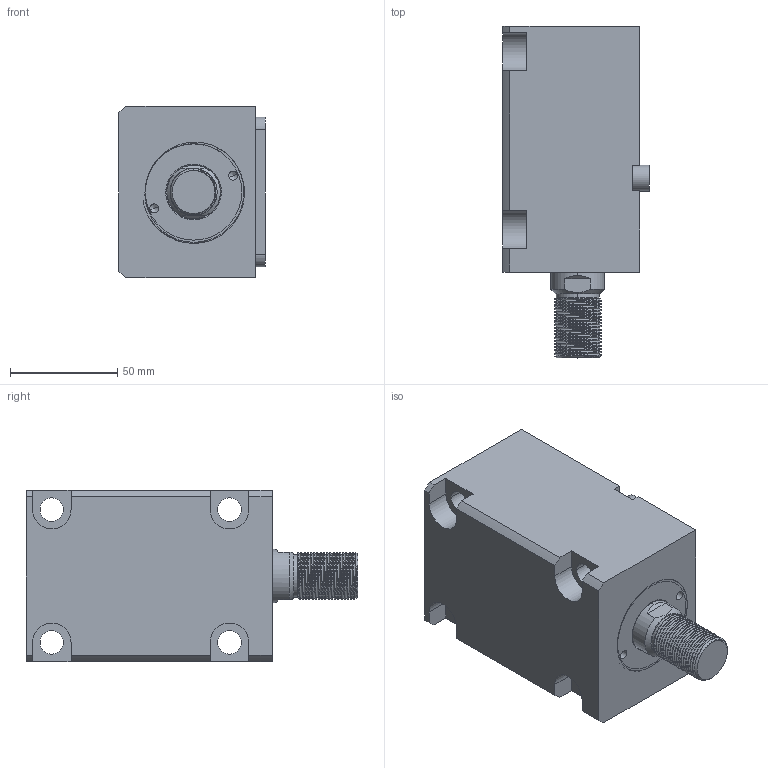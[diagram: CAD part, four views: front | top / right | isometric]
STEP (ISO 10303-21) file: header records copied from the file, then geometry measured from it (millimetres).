
FILE_DESCRIPTION (( 'STEP AP214' ), '1' );
FILE_NAME ('chtb-lam40x60w_asm.STEP', '2018-05-30T03:00:27', ( 'Windows' ), ( 'Microsoft' ), 'SwSTEP 2.0', 'SolidWorks 2015', '' );
FILE_SCHEMA (( 'AUTOMOTIVE_DESIGN' ));
Length unit declared in the file: millimetre
Products named in the file (5): CHTB-SD40X60WHSG; CHTB-SD40QG; CHTB-LAM40X60NBT; CHTB-LA40PJ; chtb-lam40x60w_asm
Assembly tree (4 placements, depth 2):
  chtb-lam40x60w_asm
    CHTB-LA40PJ
    CHTB-LAM40X60NBT
    CHTB-SD40QG
    CHTB-SD40X60WHSG
Bounding box: 68.5 x 155 x 80 mm (x, y, z)
Volume: 523152.4 mm3; surface area: 96026.5 mm2
Topology: 4 solids, 5 shells, 199 faces, 547 edges, 365 vertices
Faces by surface type: cylinder 111, plane 50, bspline 16, torus 12, cone 10
Entity records: 13609 total; most frequent: CARTESIAN_POINT 8674, ORIENTED_EDGE 1082, DIRECTION 894, EDGE_CURVE 541, VERTEX_POINT 365, AXIS2_PLACEMENT_3D 349, EDGE_LOOP 226, ADVANCED_FACE 199
